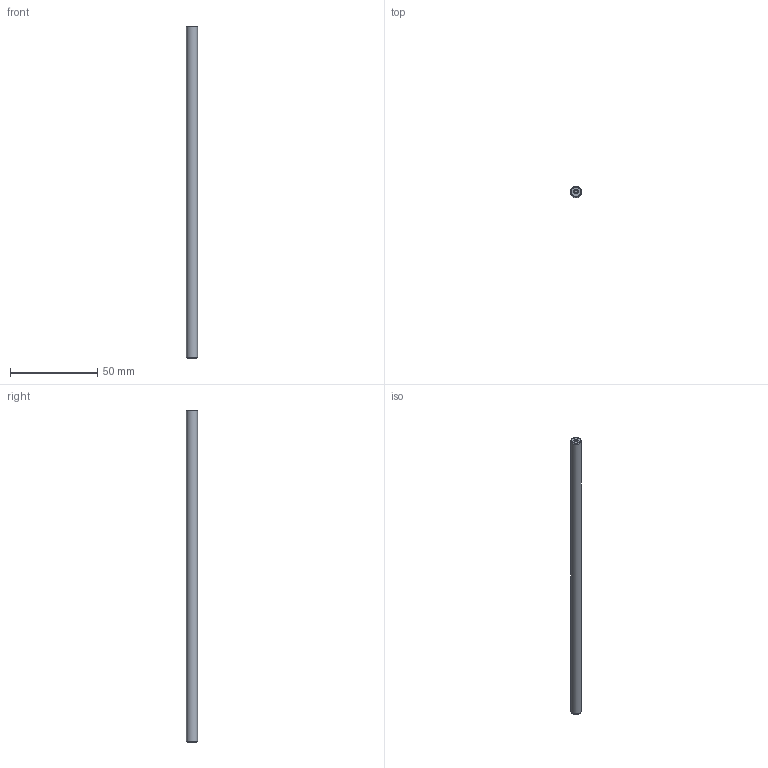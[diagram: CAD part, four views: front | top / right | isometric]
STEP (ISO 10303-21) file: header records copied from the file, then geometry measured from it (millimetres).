
FILE_DESCRIPTION(/* description */ (''),/* implementation_level */ '2;1');
FILE_NAME(/* name */ 'LM1247-120-Rod.stp',/* time_stamp */ '2017-09-06T14:03:20+02:00',/* author */ ('DR. FRITZ FAULHABER GmbH & Co. KG'),/* organization */ ('DR. FRITZ FAULHABER GmbH & Co. KG'),/* preprocessor_version */ 'ST-DEVELOPER v16',/* originating_system */ 'SIEMENS PLM Software NX 10.0',/* authorisation */ '');
FILE_SCHEMA (('AUTOMOTIVE_DESIGN { 1 0 10303 214 3 1 1 1 }'));
Length unit declared in the file: millimetre
Products named in the file (1): Alle_Motoren
Bounding box: 6.31 x 6.31 x 190 mm (x, y, z)
Volume: 5925.4 mm3; surface area: 3848.4 mm2
Topology: 1 solids, 1 shells, 11 faces, 20 edges, 13 vertices
Faces by surface type: plane 4, cylinder 3, cone 2, torus 2
Full cylindrical faces by diameter (mm): 1.6 x2, 6.31 x1
Entity records: 238 total; most frequent: DIRECTION 44, CARTESIAN_POINT 32, AXIS2_PLACEMENT_3D 22, EDGE_LOOP 20, ORIENTED_EDGE 20, FACE_BOUND 18, ADVANCED_FACE 11, VERTEX_POINT 10
